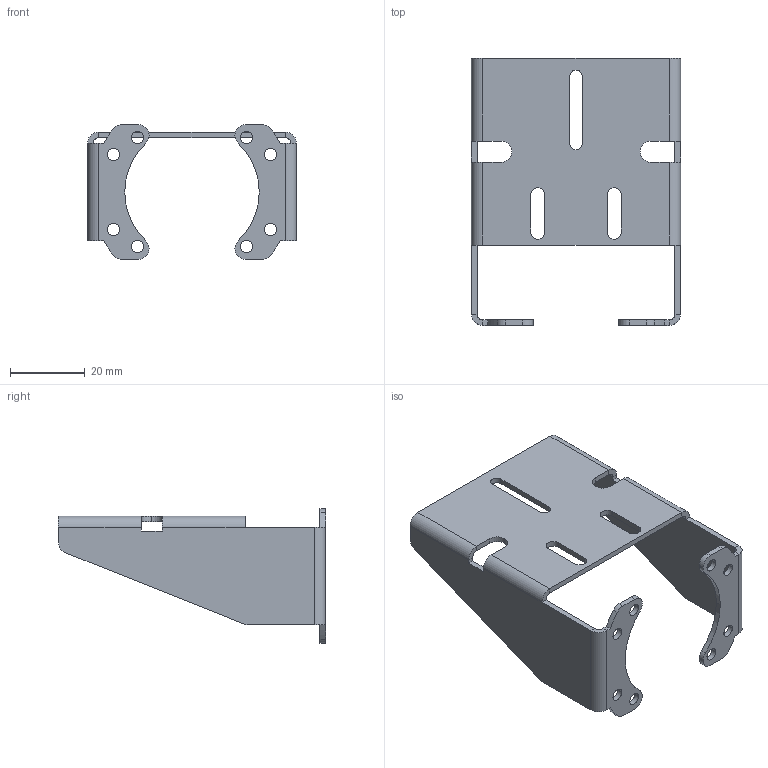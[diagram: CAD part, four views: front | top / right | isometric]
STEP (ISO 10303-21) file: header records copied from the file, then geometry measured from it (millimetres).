
FILE_DESCRIPTION (( 'STEP AP214' ), '1' );
FILE_NAME ('02144.01 Kamerahalter DTL ace, d=36.STEP', '2021-04-19T07:24:59', ( '' ), ( '' ), 'SwSTEP 2.0', 'SolidWorks 2013', '' );
FILE_SCHEMA (( 'AUTOMOTIVE_DESIGN' ));
Length unit declared in the file: millimetre
Products named in the file (1): 02144.01 Kamerahalter DTL ace, d=36
Bounding box: 56 x 71.5 x 36 mm (x, y, z)
Volume: 8828.6 mm3; surface area: 12850.6 mm2
Topology: 1 solids, 1 shells, 120 faces, 318 edges, 196 vertices
Faces by surface type: cylinder 60, plane 60
Entity records: 3786 total; most frequent: DIRECTION 680, ORIENTED_EDGE 636, CARTESIAN_POINT 635, EDGE_CURVE 318, AXIS2_PLACEMENT_3D 241, VECTOR 198, LINE 198, VERTEX_POINT 196
